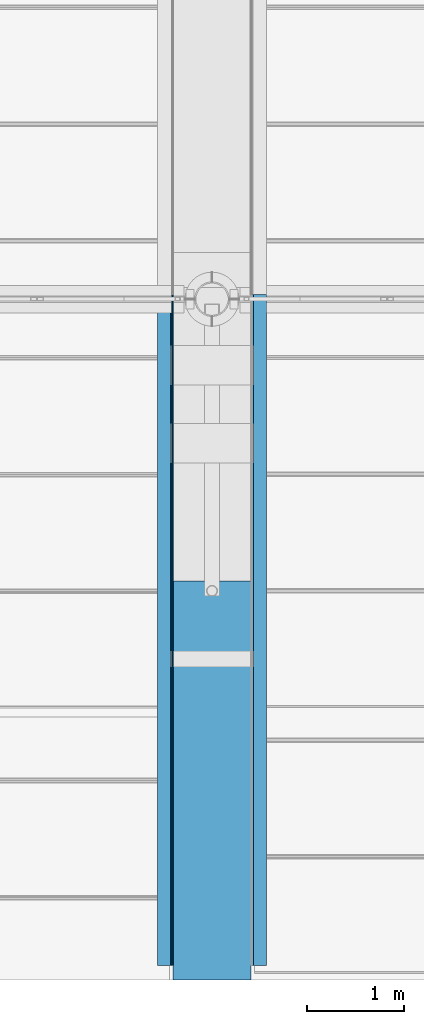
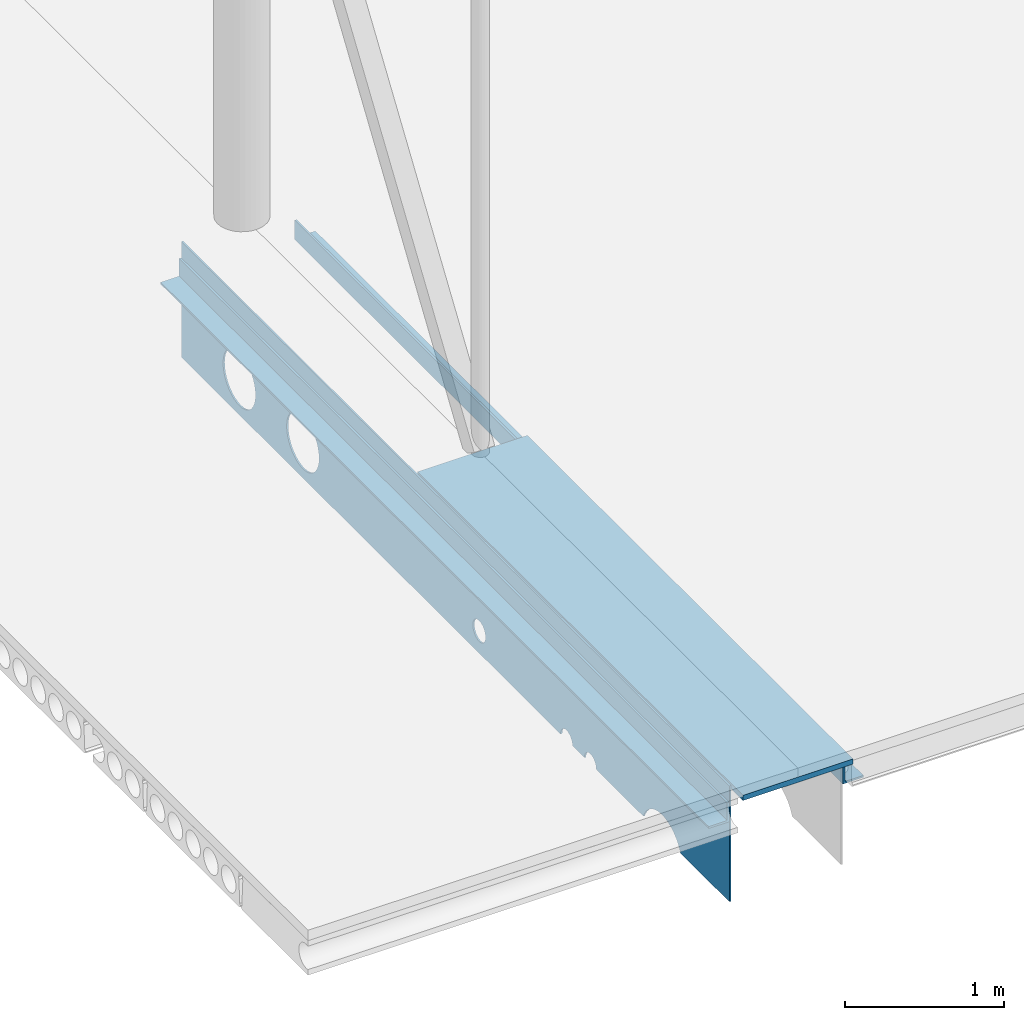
# One storey, part 3 of 21: 4 beams.
"""IFC2X3 building model written with IfcOpenShell, lengths in millimetres."""

from ifc_helpers import new_model, entity, si_unit, converted_unit, derived_unit, direction, frame, origin_with_axes, place, context, subcontext, project, spatial, faceted_brep, material, type_object, element, save


model = new_model("IFC2X3")

# Units and contexts
model_context = context("Model", 3, precision=0.01, world=frame((0.0, 4.29681676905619e-09, 0.0)), true_north=direction((4.01073788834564e-13, 1.0)))
plan_context = context("Plan", 3, precision=0.01, world=frame((0.0, 4.29681676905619e-09, 0.0)), true_north=direction((4.01073788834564e-13, 1.0)))
body_context = subcontext(model_context, "Body", "Model", "MODEL_VIEW")
ifc_project = project(units=[converted_unit("PLANEANGLEUNIT", "DEGREE", entity("IfcPositiveLengthMeasure", 0.0174532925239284), si_unit("PLANEANGLEUNIT", "RADIAN"), dimensions=[0, 0, 0, 0, 0, 0, 0]), si_unit("AREAUNIT", "SQUARE_METRE"), si_unit("LENGTHUNIT", "METRE", prefix="MILLI"), si_unit("MASSUNIT", "GRAM", prefix="KILO"), si_unit("POWERUNIT", "WATT"), si_unit("PRESSUREUNIT", "PASCAL", prefix="KILO"), si_unit("FORCEUNIT", "NEWTON", prefix="KILO"), si_unit("ELECTRICVOLTAGEUNIT", "VOLT"), si_unit("ELECTRICCURRENTUNIT", "AMPERE"), si_unit("THERMODYNAMICTEMPERATUREUNIT", "DEGREE_CELSIUS"), si_unit("TIMEUNIT", "SECOND"), si_unit("VOLUMEUNIT", "CUBIC_METRE"), derived_unit("LINEARVELOCITYUNIT", [(si_unit("LENGTHUNIT", "METRE"), 1), (si_unit("TIMEUNIT", "SECOND"), -1)]), derived_unit("VOLUMETRICFLOWRATEUNIT", [(si_unit("VOLUMEUNIT", "CUBIC_METRE"), 1), (si_unit("TIMEUNIT", "SECOND"), -1)]), derived_unit("THERMALTRANSMITTANCEUNIT", [(si_unit("POWERUNIT", "WATT"), 1), (si_unit("THERMODYNAMICTEMPERATUREUNIT", "KELVIN"), -1), (si_unit("AREAUNIT", "SQUARE_METRE"), -1)]), derived_unit("SOUNDPRESSUREUNIT", [(si_unit("PRESSUREUNIT", "PASCAL"), 1)])], contexts=[model_context, plan_context])

# Site, building, storey
site_placement = place(None, frame((0.0, -4.29681676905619e-09, 0.0), z_axis=(0.0, 0.0, 1.0), x_axis=(1.0, 0.0, 0.0)))
site = spatial("IfcSite", under=ifc_project, at=site_placement, Name="Gardermoen", CompositionType="ELEMENT")
building_placement = place(site_placement, frame((0.0, 4.29681676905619e-09, 0.0), z_axis=(0.0, 0.0, 1.0), x_axis=(1.0, 0.0, 0.0)))
building = spatial("IfcBuilding", under=site, at=building_placement, Name="TS", CompositionType="ELEMENT")
storey_placement = place(building_placement, origin_with_axes())
storey = spatial("IfcBuildingStorey", under=building, at=storey_placement, Name="F", CompositionType="ELEMENT", Elevation=0.0)

# Beams
beam_type_1 = type_object("IfcBeamType", Name="800*40", PredefinedType="NOTDEFINED")
beam_1_placement = place(storey_placement, frame((718000.0, 432150.0, 210785.0), z_axis=(-1.0, 0.0, 0.0), x_axis=(0.0, 1.0, 0.0)))
element("IfcBeam", 1, at=beam_1_placement, inside=storey, type_object=beam_type_1, Name="STÅLBJELKE", ObjectType="800*40", context=body_context, shape_type="Brep", body=[
    faceted_brep([(2349.0083450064, 20.0, 400.0), (2349.0083450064, 20.0, -400.0), (6450.00000000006, 20.0, -400.0), (6450.00000000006, 20.0, 400.0), (2349.0083450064, -20.0, 400.0), (6450.00000000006, -20.0, 400.0), (2349.0083450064, -20.0, -400.0), (6450.00000000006, -20.0, -400.0)], [[[0, 1, 2, 3]], [[4, 0, 3, 5]], [[6, 4, 5, 7]], [[1, 6, 7, 2]], [[3, 2, 7, 5]], [[4, 6, 1, 0]]], orient=[[False], [False], [False], [False], [False], [False]]),
])
ifc_material = material(Name="STEEL/S355")
beam_type_2 = type_object("IfcBeamType", Name="L150*15", PredefinedType="NOTDEFINED")
for number, where, z_axis, x_axis in (
    (2, (718487.5, 434650.0, 210590.0), (0.0, 0.0, 1.0), (0.0, 1.0, 0.0)),
    (3, (717512.5, 441550.0, 210590.0), (0.0, 0.0, 1.0), (0.0, -1.0, 0.0)),
):
    element("IfcBeam", number, at=place(storey_placement, frame(where, z_axis=z_axis, x_axis=x_axis)), inside=storey, type_object=beam_type_2, material=ifc_material, Name="STÅLBJELKE", ObjectType="L150*15", context=body_context, shape_type="Brep", body=[
        faceted_brep([(2.6775524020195e-09, 75.0, -75.0), (2.6775524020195e-09, 75.0, 75.0), (6900.0, 75.0, 75.0), (6900.0, 75.0, -75.0), (0.0, 60.0, 75.0), (6900.0, 60.0, 75.0), (-3.02679836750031e-09, 60.0, -59.9999999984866), (6900.0, 60.0, -60.0), (0.0, -75.0, -60.0), (6900.0, -75.0, -60.0), (-2.79396772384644e-09, -75.0000000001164, -75.0), (6900.0, -75.0, -75.0)], [[[0, 1, 2, 3]], [[1, 4, 5, 2]], [[4, 6, 7, 5]], [[6, 8, 9, 7]], [[8, 10, 11, 9]], [[10, 0, 3, 11]], [[5, 7, 9, 11, 3, 2]], [[10, 8, 6, 4, 1, 0]]]),
    ])
beam_type_3 = type_object("IfcBeamType", Name="1470*12", PredefinedType="NOTDEFINED")
beam_2_placement = place(storey_placement, frame((717594.0, 434650.0, 210055.0), z_axis=(0.0, 0.0, 1.0), x_axis=(0.0, 1.0, 0.0)))
element("IfcBeam", 4, at=beam_2_placement, inside=storey, type_object=beam_type_3, Name="STÅLBJELKE", ObjectType="1470*12", context=body_context, shape_type="Brep", body=[
    faceted_brep([(6361.69729464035, -6.0, 50.2278907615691), (6361.69729464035, 6.0, 50.2278907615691), (6370.90078161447, 6.0, 84.5757717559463), (6370.90078161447, -6.0, 84.5757717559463), (6374.0, 6.0, 120.0), (6374.0, -6.0, 120.0), (6370.90078161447, 6.0, 155.424228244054), (6370.90078161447, -6.0, 155.424228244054), (6361.69729464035, 6.0, 189.772109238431), (6361.69729464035, -6.0, 189.772109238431), (6346.66918237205, 6.0, 222.0), (6346.66918237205, -6.0, 222.0), (6326.27306639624, 6.0, 251.128672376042), (6326.27306639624, -6.0, 251.128672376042), (6301.12867237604, 6.0, 276.273066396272), (6301.12867237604, -6.0, 276.273066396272), (6272.0, 6.0, 296.669182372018), (6272.0, -6.0, 296.669182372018), (6239.77210923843, 6.0, 311.697294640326), (6239.77210923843, -6.0, 311.697294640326), (6205.42422824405, 6.0, 320.900781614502), (6205.42422824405, -6.0, 320.900781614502), (6170.0, 6.0, 324.0), (6170.0, -6.0, 324.0), (6134.57577175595, 6.0, 320.900781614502), (6134.57577175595, -6.0, 320.900781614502), (6100.22789076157, 6.0, 311.697294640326), (6100.22789076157, -6.0, 311.697294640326), (6068.0, 6.0, 296.669182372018), (6068.0, -6.0, 296.669182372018), (6038.87132762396, 6.0, 276.273066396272), (6038.87132762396, -6.0, 276.273066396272), (6013.72693360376, 6.0, 251.128672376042), (6013.72693360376, -6.0, 251.128672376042), (5993.33081762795, 6.0, 222.0), (5993.33081762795, -6.0, 222.0), (5978.30270535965, 6.0, 189.772109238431), (5978.30270535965, -6.0, 189.772109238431), (5969.09921838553, 6.0, 155.424228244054), (5969.09921838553, -6.0, 155.424228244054), (5966.0, 6.0, 120.0), (5966.0, -6.0, 120.0), (5969.09921838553, 6.0, 84.5757717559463), (5969.09921838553, -6.0, 84.5757717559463), (5978.30270535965, 6.0, 50.2278907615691), (5978.30270535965, -6.0, 50.2278907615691), (5993.33081762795, 6.0, 18.0), (5993.33081762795, -6.0, 18.0), (6013.72693360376, 6.0, -11.1286723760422), (6013.72693360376, -6.0, -11.1286723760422), (6038.87132762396, 6.0, -36.273066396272), (6038.87132762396, -6.0, -36.273066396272), (6068.0, 6.0, -56.6691823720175), (6068.0, -6.0, -56.6691823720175), (6100.22789076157, 6.0, -71.6972946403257), (6100.22789076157, -6.0, -71.6972946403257), (6134.57577175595, 6.0, -80.9007816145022), (6134.57577175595, -6.0, -80.9007816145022), (6170.0, 6.0, -84.0), (6170.0, -6.0, -84.0), (6205.42422824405, 6.0, -80.9007816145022), (6205.42422824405, -6.0, -80.9007816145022), (6239.77210923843, 6.0, -71.6972946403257), (6239.77210923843, -6.0, -71.6972946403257), (6272.0, 6.0, -56.6691823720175), (6272.0, -6.0, -56.6691823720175), (6301.12867237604, 6.0, -36.273066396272), (6301.12867237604, -6.0, -36.273066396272), (6326.27306639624, 6.0, -11.1286723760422), (6326.27306639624, -6.0, -11.1286723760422), (6346.66918237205, 6.0, 18.0), (6346.66918237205, -6.0, 18.0), (6900.0, 6.0, 735.0), (6900.0, -6.0, 735.0), (0.0, -6.0, 735.0), (0.0, 6.0, 735.0), (0.0, -6.0, -155.0), (0.0, 6.0, -155.0), (6900.0, 6.0, -155.0), (6900.0, -6.0, -155.0), (616.262191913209, 6.0, -155.0), (616.262191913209, -6.0, -155.0), (622.793336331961, -6.0, -139.23242256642), (622.793336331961, 6.0, -139.23242256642), (643.700666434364, -6.0, -105.114760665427), (643.700666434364, 6.0, -105.114760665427), (669.687770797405, -6.0, -74.6877707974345), (669.687770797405, 6.0, -74.6877707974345), (700.114760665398, -6.0, -48.7006664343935), (700.114760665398, 6.0, -48.7006664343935), (734.232422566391, -6.0, -27.7933363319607), (734.232422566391, 6.0, -27.7933363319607), (771.200666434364, -6.0, -12.4805883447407), (771.200666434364, 6.0, -12.4805883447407), (810.109211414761, -6.0, -3.13947314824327), (810.109211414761, 6.0, -3.13947314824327), (850.0, -6.0, 0.0), (850.0, 6.0, 0.0), (889.890788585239, -6.0, -3.13947314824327), (889.890788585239, 6.0, -3.13947314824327), (928.799333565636, -6.0, -12.4805883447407), (928.799333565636, 6.0, -12.4805883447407), (965.767577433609, -6.0, -27.7933363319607), (965.767577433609, 6.0, -27.7933363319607), (999.885239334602, -6.0, -48.7006664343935), (999.885239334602, 6.0, -48.7006664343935), (1030.31222920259, -6.0, -74.6877707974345), (1030.31222920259, 6.0, -74.6877707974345), (1056.29933356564, -6.0, -105.114760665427), (1056.29933356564, 6.0, -105.114760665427), (1077.20666366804, -6.0, -139.23242256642), (1077.20666366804, 6.0, -139.23242256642), (1083.73780808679, -6.0, -155.0), (1083.73780808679, 6.0, -155.0), (1825.0, -6.0, -155.0), (1825.0, 6.0, -155.0), (1822.44443697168, 6.0, -135.588571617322), (1822.44443697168, -6.0, -135.588571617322), (1677.55556302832, -6.0, -135.588571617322), (1677.55556302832, 6.0, -135.588571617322), (1675.0, 6.0, -155.0), (1675.0, -6.0, -155.0), (1685.04809471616, -6.0, -117.5), (1685.04809471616, 6.0, -117.5), (1696.966991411, -6.0, -101.966991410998), (1696.966991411, 6.0, -101.966991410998), (1712.5, -6.0, -90.0480947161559), (1712.5, 6.0, -90.0480947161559), (1730.58857161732, -6.0, -82.5555630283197), (1730.58857161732, 6.0, -82.5555630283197), (1750.0, -6.0, -80.0), (1750.0, 6.0, -80.0), (1769.41142838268, -6.0, -82.5555630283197), (1769.41142838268, 6.0, -82.5555630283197), (1787.5, -6.0, -90.0480947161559), (1787.5, 6.0, -90.0480947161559), (1803.033008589, -6.0, -101.966991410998), (1803.033008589, 6.0, -101.966991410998), (1814.95190528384, -6.0, -117.5), (1814.95190528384, 6.0, -117.5), (2125.0, -6.0, -155.0), (2125.0, 6.0, -155.0), (2122.44443697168, 6.0, -135.588571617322), (2122.44443697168, -6.0, -135.588571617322), (1977.55556302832, -6.0, -135.588571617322), (1977.55556302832, 6.0, -135.588571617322), (1975.0, 6.0, -155.0), (1975.0, -6.0, -155.0), (1985.04809471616, -6.0, -117.5), (1985.04809471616, 6.0, -117.5), (1996.966991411, -6.0, -101.966991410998), (1996.966991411, 6.0, -101.966991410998), (2012.5, -6.0, -90.0480947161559), (2012.5, 6.0, -90.0480947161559), (2030.58857161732, -6.0, -82.5555630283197), (2030.58857161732, 6.0, -82.5555630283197), (2050.0, -6.0, -80.0), (2050.0, 6.0, -80.0), (2069.41142838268, -6.0, -82.5555630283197), (2069.41142838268, 6.0, -82.5555630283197), (2087.5, -6.0, -90.0480947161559), (2087.5, 6.0, -90.0480947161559), (2103.033008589, -6.0, -101.966991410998), (2103.033008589, 6.0, -101.966991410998), (2114.95190528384, -6.0, -117.5), (2114.95190528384, 6.0, -117.5), (3230.0, -6.0, 15.0), (3230.0, 6.0, 15.0), (3227.2740661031, 6.0, 35.7055236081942), (3227.2740661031, -6.0, 35.7055236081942), (3227.2740661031, -6.0, -5.7055236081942), (3227.2740661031, 6.0, -5.7055236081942), (3219.28203230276, -6.0, -25.0), (3219.28203230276, 6.0, -25.0), (3206.5685424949, -6.0, -41.5685424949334), (3206.5685424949, 6.0, -41.5685424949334), (3190.0, -6.0, -54.2820323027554), (3190.0, 6.0, -54.2820323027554), (3170.70552360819, -6.0, -62.2740661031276), (3170.70552360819, 6.0, -62.2740661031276), (3150.0, -6.0, -65.0), (3150.0, 6.0, -65.0), (3129.29447639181, -6.0, -62.2740661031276), (3129.29447639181, 6.0, -62.2740661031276), (3110.0, -6.0, -54.2820323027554), (3110.0, 6.0, -54.2820323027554), (3093.4314575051, -6.0, -41.5685424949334), (3093.4314575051, 6.0, -41.5685424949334), (3080.71796769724, -6.0, -25.0), (3080.71796769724, 6.0, -25.0), (3072.7259338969, -6.0, -5.7055236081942), (3072.7259338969, 6.0, -5.7055236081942), (3070.0, -6.0, 15.0), (3070.0, 6.0, 15.0), (3072.7259338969, -6.0, 35.7055236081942), (3072.7259338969, 6.0, 35.7055236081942), (3080.71796769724, -6.0, 55.0), (3080.71796769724, 6.0, 55.0), (3093.4314575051, -6.0, 71.5685424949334), (3093.4314575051, 6.0, 71.5685424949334), (3110.0, -6.0, 84.2820323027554), (3110.0, 6.0, 84.2820323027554), (3129.29447639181, -6.0, 92.2740661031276), (3129.29447639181, 6.0, 92.2740661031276), (3150.0, -6.0, 95.0), (3150.0, 6.0, 95.0), (3170.70552360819, -6.0, 92.2740661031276), (3170.70552360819, 6.0, 92.2740661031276), (3190.0, -6.0, 84.2820323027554), (3190.0, 6.0, 84.2820323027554), (3206.5685424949, -6.0, 71.5685424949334), (3206.5685424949, 6.0, 71.5685424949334), (3219.28203230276, -6.0, 55.0), (3219.28203230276, 6.0, 55.0), (5570.90078161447, -6.0, 84.5757717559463), (5574.0, -6.0, 120.0), (5570.90078161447, -6.0, 155.424228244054), (5561.69729464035, -6.0, 189.772109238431), (5546.66918237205, -6.0, 222.0), (5526.27306639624, -6.0, 251.128672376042), (5501.12867237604, -6.0, 276.273066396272), (5472.0, -6.0, 296.669182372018), (5439.77210923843, -6.0, 311.697294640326), (5405.42422824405, -6.0, 320.900781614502), (5370.0, -6.0, 324.0), (5334.57577175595, -6.0, 320.900781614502), (5300.22789076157, -6.0, 311.697294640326), (5268.0, -6.0, 296.669182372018), (5238.87132762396, -6.0, 276.273066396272), (5213.72693360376, -6.0, 251.128672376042), (5193.33081762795, -6.0, 222.0), (5178.30270535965, -6.0, 189.772109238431), (5169.09921838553, -6.0, 155.424228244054), (5166.0, -6.0, 120.0), (5169.09921838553, -6.0, 84.5757717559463), (5178.30270535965, -6.0, 50.2278907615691), (5193.33081762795, -6.0, 18.0), (5213.72693360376, -6.0, -11.1286723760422), (5238.87132762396, -6.0, -36.273066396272), (5268.0, -6.0, -56.6691823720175), (5300.22789076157, -6.0, -71.6972946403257), (5334.57577175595, -6.0, -80.9007816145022), (5370.0, -6.0, -84.0), (5405.42422824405, -6.0, -80.9007816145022), (5439.77210923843, -6.0, -71.6972946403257), (5472.0, -6.0, -56.6691823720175), (5501.12867237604, -6.0, -36.273066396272), (5526.27306639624, -6.0, -11.1286723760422), (5546.66918237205, -6.0, 18.0), (5561.69729464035, -6.0, 50.2278907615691), (5570.90078161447, 6.0, 155.424228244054), (5561.69729464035, 6.0, 189.772109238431), (5574.0, 6.0, 120.0), (5570.90078161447, 6.0, 84.5757717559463), (5561.69729464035, 6.0, 50.2278907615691), (5546.66918237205, 6.0, 18.0), (5526.27306639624, 6.0, -11.1286723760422), (5501.12867237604, 6.0, -36.273066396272), (5472.0, 6.0, -56.6691823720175), (5439.77210923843, 6.0, -71.6972946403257), (5405.42422824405, 6.0, -80.9007816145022), (5370.0, 6.0, -84.0), (5334.57577175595, 6.0, -80.9007816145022), (5300.22789076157, 6.0, -71.6972946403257), (5268.0, 6.0, -56.6691823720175), (5238.87132762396, 6.0, -36.273066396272), (5213.72693360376, 6.0, -11.1286723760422), (5193.33081762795, 6.0, 18.0), (5178.30270535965, 6.0, 50.2278907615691), (5169.09921838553, 6.0, 84.5757717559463), (5166.0, 6.0, 120.0), (5169.09921838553, 6.0, 155.424228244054), (5178.30270535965, 6.0, 189.772109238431), (5193.33081762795, 6.0, 222.0), (5213.72693360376, 6.0, 251.128672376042), (5238.87132762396, 6.0, 276.273066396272), (5268.0, 6.0, 296.669182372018), (5300.22789076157, 6.0, 311.697294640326), (5334.57577175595, 6.0, 320.900781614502), (5370.0, 6.0, 324.0), (5405.42422824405, 6.0, 320.900781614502), (5439.77210923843, 6.0, 311.697294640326), (5472.0, 6.0, 296.669182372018), (5501.12867237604, 6.0, 276.273066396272), (5526.27306639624, 6.0, 251.128672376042), (5546.66918237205, 6.0, 222.0)], [[[0, 1, 2, 3]], [[3, 2, 4, 5]], [[5, 4, 6, 7]], [[7, 6, 8, 9]], [[9, 8, 10, 11]], [[11, 10, 12, 13]], [[13, 12, 14, 15]], [[15, 14, 16, 17]], [[17, 16, 18, 19]], [[19, 18, 20, 21]], [[21, 20, 22, 23]], [[23, 22, 24, 25]], [[25, 24, 26, 27]], [[27, 26, 28, 29]], [[29, 28, 30, 31]], [[31, 30, 32, 33]], [[33, 32, 34, 35]], [[35, 34, 36, 37]], [[37, 36, 38, 39]], [[39, 38, 40, 41]], [[41, 40, 42, 43]], [[43, 42, 44, 45]], [[45, 44, 46, 47]], [[47, 46, 48, 49]], [[49, 48, 50, 51]], [[51, 50, 52, 53]], [[53, 52, 54, 55]], [[55, 54, 56, 57]], [[57, 56, 58, 59]], [[59, 58, 60, 61]], [[61, 60, 62, 63]], [[63, 62, 64, 65]], [[65, 64, 66, 67]], [[67, 66, 68, 69]], [[69, 68, 70, 71]], [[71, 70, 1, 0]], [[72, 73, 74, 75]], [[76, 77, 75, 74]], [[78, 79, 73, 72]], [[80, 81, 82, 83]], [[84, 85, 83, 82]], [[86, 87, 85, 84]], [[88, 89, 87, 86]], [[90, 91, 89, 88]], [[92, 93, 91, 90]], [[94, 95, 93, 92]], [[96, 97, 95, 94]], [[98, 99, 97, 96]], [[100, 101, 99, 98]], [[102, 103, 101, 100]], [[104, 105, 103, 102]], [[106, 107, 105, 104]], [[108, 109, 107, 106]], [[110, 111, 109, 108]], [[112, 113, 111, 110]], [[114, 115, 116, 117]], [[118, 119, 120, 121]], [[122, 123, 119, 118]], [[124, 125, 123, 122]], [[126, 127, 125, 124]], [[128, 129, 127, 126]], [[130, 131, 129, 128]], [[132, 133, 131, 130]], [[134, 135, 133, 132]], [[136, 137, 135, 134]], [[138, 139, 137, 136]], [[117, 116, 139, 138]], [[140, 141, 142, 143]], [[144, 145, 146, 147]], [[148, 149, 145, 144]], [[150, 151, 149, 148]], [[152, 153, 151, 150]], [[154, 155, 153, 152]], [[156, 157, 155, 154]], [[158, 159, 157, 156]], [[160, 161, 159, 158]], [[162, 163, 161, 160]], [[164, 165, 163, 162]], [[143, 142, 165, 164]], [[166, 167, 168, 169]], [[170, 171, 167, 166]], [[172, 173, 171, 170]], [[174, 175, 173, 172]], [[176, 177, 175, 174]], [[178, 179, 177, 176]], [[180, 181, 179, 178]], [[182, 183, 181, 180]], [[184, 185, 183, 182]], [[186, 187, 185, 184]], [[188, 189, 187, 186]], [[190, 191, 189, 188]], [[192, 193, 191, 190]], [[194, 195, 193, 192]], [[196, 197, 195, 194]], [[198, 199, 197, 196]], [[200, 201, 199, 198]], [[202, 203, 201, 200]], [[204, 205, 203, 202]], [[206, 207, 205, 204]], [[208, 209, 207, 206]], [[210, 211, 209, 208]], [[212, 213, 211, 210]], [[169, 168, 213, 212]], [[79, 140, 143, 164, 162, 160, 158, 156, 154, 152, 150, 148, 144, 147, 114, 117, 138, 136, 134, 132, 130, 128, 126, 124, 122, 118, 121, 112, 110, 108, 106, 104, 102, 100, 98, 96, 94, 92, 90, 88, 86, 84, 82, 81, 76, 74, 73], [3, 5, 7, 9, 11, 13, 15, 17, 19, 21, 23, 25, 27, 29, 31, 33, 35, 37, 39, 41, 43, 45, 47, 49, 51, 53, 55, 57, 59, 61, 63, 65, 67, 69, 71, 0], [214, 215, 216, 217, 218, 219, 220, 221, 222, 223, 224, 225, 226, 227, 228, 229, 230, 231, 232, 233, 234, 235, 236, 237, 238, 239, 240, 241, 242, 243, 244, 245, 246, 247, 248, 249], [170, 166, 169, 212, 210, 208, 206, 204, 202, 200, 198, 196, 194, 192, 190, 188, 186, 184, 182, 180, 178, 176, 174, 172]], [[216, 250, 251, 217]], [[215, 252, 250, 216]], [[214, 253, 252, 215]], [[249, 254, 253, 214]], [[248, 255, 254, 249]], [[247, 256, 255, 248]], [[246, 257, 256, 247]], [[245, 258, 257, 246]], [[244, 259, 258, 245]], [[243, 260, 259, 244]], [[242, 261, 260, 243]], [[241, 262, 261, 242]], [[240, 263, 262, 241]], [[239, 264, 263, 240]], [[238, 265, 264, 239]], [[237, 266, 265, 238]], [[236, 267, 266, 237]], [[235, 268, 267, 236]], [[234, 269, 268, 235]], [[233, 270, 269, 234]], [[232, 271, 270, 233]], [[231, 272, 271, 232]], [[230, 273, 272, 231]], [[229, 274, 273, 230]], [[228, 275, 274, 229]], [[227, 276, 275, 228]], [[226, 277, 276, 227]], [[225, 278, 277, 226]], [[224, 279, 278, 225]], [[223, 280, 279, 224]], [[222, 281, 280, 223]], [[221, 282, 281, 222]], [[220, 283, 282, 221]], [[219, 284, 283, 220]], [[218, 285, 284, 219]], [[217, 251, 285, 218]], [[77, 80, 83, 85, 87, 89, 91, 93, 95, 97, 99, 101, 103, 105, 107, 109, 111, 113, 120, 119, 123, 125, 127, 129, 131, 133, 135, 137, 139, 116, 115, 146, 145, 149, 151, 153, 155, 157, 159, 161, 163, 165, 142, 141, 78, 72, 75], [6, 4, 2, 1, 70, 68, 66, 64, 62, 60, 58, 56, 54, 52, 50, 48, 46, 44, 42, 40, 38, 36, 34, 32, 30, 28, 26, 24, 22, 20, 18, 16, 14, 12, 10, 8], [250, 252, 253, 254, 255, 256, 257, 258, 259, 260, 261, 262, 263, 264, 265, 266, 267, 268, 269, 270, 271, 272, 273, 274, 275, 276, 277, 278, 279, 280, 281, 282, 283, 284, 285, 251], [168, 167, 171, 173, 175, 177, 179, 181, 183, 185, 187, 189, 191, 193, 195, 197, 199, 201, 203, 205, 207, 209, 211, 213]], [[81, 80, 77, 76]], [[141, 140, 79, 78]], [[121, 120, 113, 112]], [[147, 146, 115, 114]]], orient=[[False], [False], [False], [False], [False], [False], [False], [False], [False], [False], [False], [False], [False], [False], [False], [False], [False], [False], [False], [False], [False], [False], [False], [False], [False], [False], [False], [False], [False], [False], [False], [False], [False], [False], [False], [False], [False], [False], [False], [False], [False], [False], [False], [False], [False], [False], [False], [False], [False], [False], [False], [False], [False], [False], [False], [False], [False], [False], [False], [False], [False], [False], [False], [False], [False], [False], [False], [False], [False], [False], [False], [False], [False], [False], [False], [False], [False], [False], [False], [False], [False], [False], [False], [False], [False], [False], [False], [False], [False], [False], [False], [False], [False], [False], [False], [False], [False], [False], [False], [False], [False], [False], [False], [False, False, False, False], [False], [False], [False], [False], [False], [False], [False], [False], [False], [False], [False], [False], [False], [False], [False], [False], [False], [False], [False], [False], [False], [False], [False], [False], [False], [False], [False], [False], [False], [False], [False], [False], [False], [False], [False], [False], [False, False, False, False], [False], [False], [False], [False]]),
])

save(model, "model.ifc")
